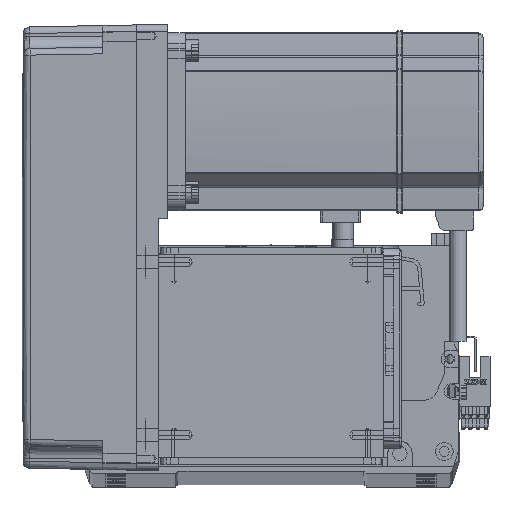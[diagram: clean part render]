
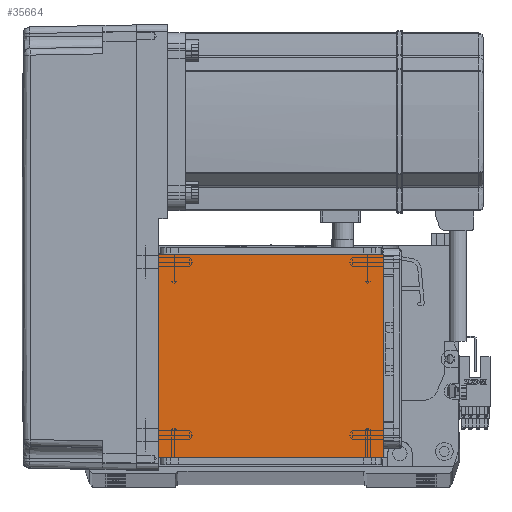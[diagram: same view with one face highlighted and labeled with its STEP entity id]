
A CAD part, top view. The second image highlights one B-rep face of the part: STEP entity #35664.
In plain terms, the highlighted planar face has unit normal (0, 0, 1).
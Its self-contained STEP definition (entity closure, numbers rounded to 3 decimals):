
#948 = ORIENTED_EDGE ( 'NONE', *, *, #25907, .F. ) ;
#1297 = CARTESIAN_POINT ( 'NONE',  ( 50.5, 111.5, 115. ) ) ;
#5731 = AXIS2_PLACEMENT_3D ( 'NONE', #51077, #49254, #7811 ) ;
#6265 = DIRECTION ( 'NONE',  ( 0., -1., 0. ) ) ;
#7341 = VERTEX_POINT ( 'NONE', #22998 ) ;
#7535 = CARTESIAN_POINT ( 'NONE',  ( 50.5, 122., 115. ) ) ;
#7811 = DIRECTION ( 'NONE',  ( 1., 0., 0. ) ) ;
#9444 = ORIENTED_EDGE ( 'NONE', *, *, #12577, .T. ) ;
#10219 = EDGE_CURVE ( 'NONE', #7341, #48265, #38199, .T. ) ;
#11761 = EDGE_CURVE ( 'NONE', #32412, #48265, #50192, .T. ) ;
#12577 = EDGE_CURVE ( 'NONE', #32412, #24685, #35151, .T. ) ;
#14312 = VECTOR ( 'NONE', #23560, 1000. ) ;
#20826 = CARTESIAN_POINT ( 'NONE',  ( -50.5, 122., 115. ) ) ;
#22998 = CARTESIAN_POINT ( 'NONE',  ( -50.5, 111.5, 115. ) ) ;
#23560 = DIRECTION ( 'NONE',  ( 1., 0., 0. ) ) ;
#23665 = PLANE ( 'NONE',  #5731 ) ;
#24685 = VERTEX_POINT ( 'NONE', #1297 ) ;
#25907 = EDGE_CURVE ( 'NONE', #7341, #24685, #58327, .T. ) ;
#30278 = CARTESIAN_POINT ( 'NONE',  ( -50.5, 20., 115. ) ) ;
#32412 = VERTEX_POINT ( 'NONE', #58261 ) ;
#35151 = LINE ( 'NONE', #7535, #60422 ) ;
#35664 = ADVANCED_FACE ( 'NONE', ( #53863 ), #23665, .T. ) ;
#38199 = LINE ( 'NONE', #20826, #50458 ) ;
#40671 = CARTESIAN_POINT ( 'NONE',  ( -70.004, 20., 115. ) ) ;
#47697 = ORIENTED_EDGE ( 'NONE', *, *, #10219, .T. ) ;
#48265 = VERTEX_POINT ( 'NONE', #30278 ) ;
#49254 = DIRECTION ( 'NONE',  ( 0., 0., 1. ) ) ;
#49485 = EDGE_LOOP ( 'NONE', ( #948, #47697, #50743, #9444 ) ) ;
#50192 = LINE ( 'NONE', #40671, #61633 ) ;
#50458 = VECTOR ( 'NONE', #6265, 1000. ) ;
#50743 = ORIENTED_EDGE ( 'NONE', *, *, #11761, .F. ) ;
#50930 = DIRECTION ( 'NONE',  ( -1., 0., 0. ) ) ;
#51077 = CARTESIAN_POINT ( 'NONE',  ( 0., 0., 115. ) ) ;
#53863 = FACE_OUTER_BOUND ( 'NONE', #49485, .T. ) ;
#54410 = DIRECTION ( 'NONE',  ( 0., 1., 0. ) ) ;
#54569 = CARTESIAN_POINT ( 'NONE',  ( -70.004, 111.5, 115. ) ) ;
#58261 = CARTESIAN_POINT ( 'NONE',  ( 50.5, 20., 115. ) ) ;
#58327 = LINE ( 'NONE', #54569, #14312 ) ;
#60422 = VECTOR ( 'NONE', #54410, 1000. ) ;
#61633 = VECTOR ( 'NONE', #50930, 1000. ) ;
